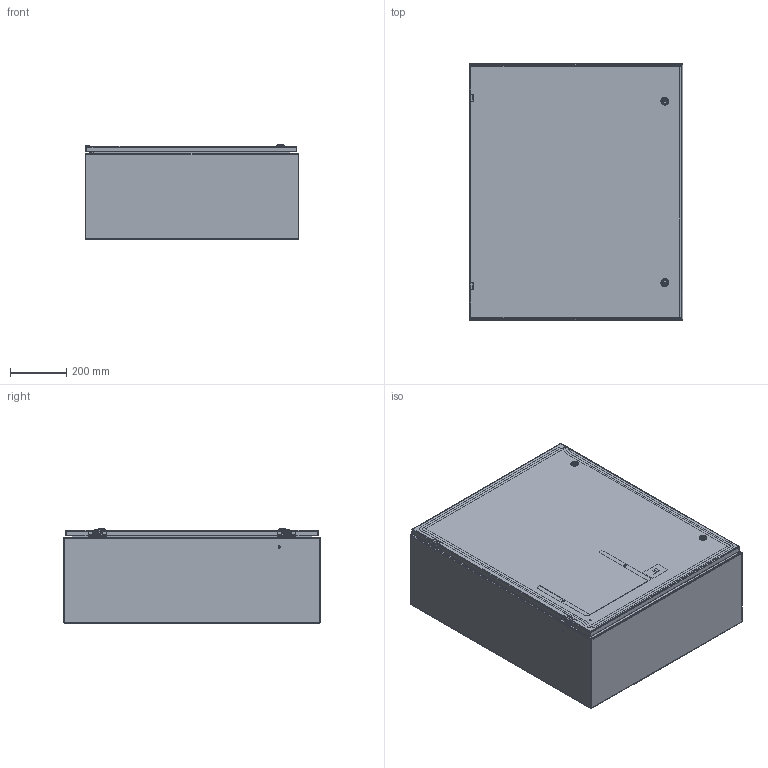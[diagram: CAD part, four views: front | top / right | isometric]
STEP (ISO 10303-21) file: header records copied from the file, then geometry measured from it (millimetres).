
FILE_DESCRIPTION((''),'2;1');
FILE_NAME('MODEL-306_ASM','2026-04-09T10:35:34',('johnh'),('SAGINAW CONTROL & ENGINEERING'),'CREO PARAMETRIC BY PTC INC, 2021284','CREO PARAMETRIC BY PTC INC, 2021284','');
FILE_SCHEMA(('AUTOMOTIVE_DESIGN { 1 0 10303 214 1 1 1 1 }'));
Length unit declared in the file: inch
Products named in the file (30): MODEL-306-BDY; MODEL-306-TP; MODEL-306-BTM; MODEL-306-DR; 100837; 100882; 111267; 125597; 100794_SHAFT; 100794_INSERT; 100794_CAM; 100794_NUT; 100794_SCREW; 100794_ASM; MODEL-306-DOOR-GASKET; 126392; 126392_ASM; 126395; 102483; 101226; 101389; 102140; 132757; MODEL-306-DOOR-ASSY_ASM; 101653; 122192; SUBPANEL; 100904; SUBPANEL-SUBASSEMBLY_ASM; MODEL-306_ASM
Assembly tree (55 placements, depth 4):
  MODEL-306_ASM
    MODEL-306-BDY
    MODEL-306-TP
    MODEL-306-BTM
    MODEL-306-DOOR-ASSY_ASM
      MODEL-306-DR
      100837  x3
      100882  x2
      111267
      125597
      100794_ASM  x2
        100794_SHAFT
        100794_INSERT
        100794_CAM
        100794_NUT
        100794_SCREW
      MODEL-306-DOOR-GASKET
      126392_ASM  x2
        126392
      126395  x2
      102483  x6
      101226  x2
      101389  x2
      102140  x2
      132757  x2
    100837
    101653  x6
    122192
    SUBPANEL-SUBASSEMBLY_ASM
      SUBPANEL
      100904  x6
Bounding box: 762 x 914.4 x 335.93 mm (x, y, z)
Volume: 7609212 mm3; surface area: 6876795.8 mm2
Topology: 56 solids, 56 shells, 3265 faces, 8236 edges, 5154 vertices
Faces by surface type: plane 1438, cylinder 893, bspline 472, torus 258, cone 132, sphere 72
Entity records: 88466 total; most frequent: CARTESIAN_POINT 24513, ORIENTED_EDGE 9208, DIRECTION 8708, PRESENTATION_STYLE_ASSIGNMENT 4805, EDGE_CURVE 4604, STYLED_ITEM 4528, CURVE_STYLE 4442, AXIS2_PLACEMENT_3D 3147
